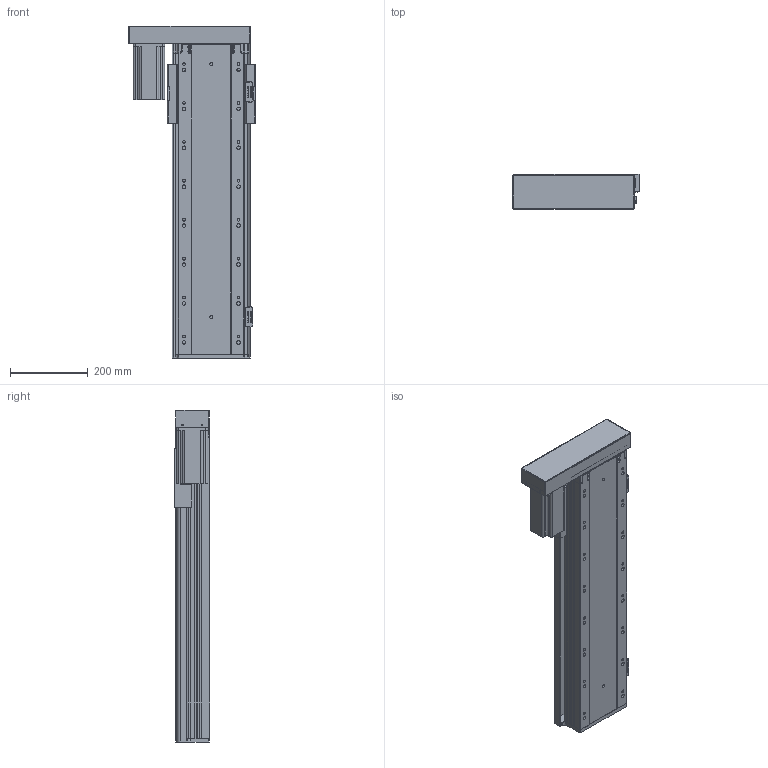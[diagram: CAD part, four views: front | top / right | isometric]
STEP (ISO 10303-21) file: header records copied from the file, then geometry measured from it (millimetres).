
FILE_DESCRIPTION (( 'STEP AP203' ), '1' );
FILE_NAME ('RY170FB-L2020-300-LK.SLDASM_550.step', '2021-02-23T03:02:34', ( '盈信电脑' ), ( '东莞市道滘镇水果街19号' ), 'SwSTEP 2.0', 'SolidWorks 2012', '' );
FILE_SCHEMA (( 'CONFIG_CONTROL_DESIGN' ));
Length unit declared in the file: millimetre
Products named in the file (16): RY170FB-酘衵殏萇儂欶750W; RY170FB-左右折电机安装板750W; RY140FB-674嫖萇覜茼え; RY170FB-L2020-300-LK.SLDASM_550; RY140直线电机感应器674光电安装座; RY140-674嫖萇耀輸; 覜茼ん674; RY170FB-300蛌殏奻裔-LK_550; RY170FB-铝滑块(25丝杆）; RY170FB-綴裔啣; 怢湛750W萇儂ㄗ80遺ㄘ; RY170FB-转折电机端支撑座(7002); 滅袉蝶18-28; 滅袉蝶18-10; RY170FB-300蛌殏倰第菁釱-LK_550
Assembly tree (18 placements, depth 3):
  RY170FB-L2020-300-LK.SLDASM_550
    RY170FB-300蛌殏倰第菁釱-LK_550
    滅袉蝶18-28
    滅袉蝶18-10
    RY170FB-转折电机端支撑座(7002)
    怢湛750W萇儂ㄗ80遺ㄘ
    RY170FB-铝滑块(25丝杆）
    RY170FB-綴裔啣
    RY170FB-300蛌殏奻裔-LK_550
    RY140-674嫖萇耀輸
      覜茼ん674  x2
      RY140直线电机感应器674光电安装座
    RY140-674嫖萇耀輸
      覜茼ん674
      RY140直线电机感应器674光电安装座
    RY140FB-674嫖萇覜茼え
    RY170FB-左右折电机安装板750W
    RY170FB-酘衵殏萇儂欶750W
Bounding box: 323.95 x 90.5 x 852.7 mm (x, y, z)
Volume: 5847176.6 mm3; surface area: 1662477.8 mm2
Topology: 16 solids, 16 shells, 1573 faces, 4486 edges, 2858 vertices
Faces by surface type: cylinder 829, plane 592, cone 144, bspline 8
Entity records: 50375 total; most frequent: CARTESIAN_POINT 12177, ORIENTED_EDGE 7736, DIRECTION 7480, EDGE_CURVE 3868, AXIS2_PLACEMENT_3D 2723, VERTEX_POINT 2538, VECTOR 2034, LINE 2034
